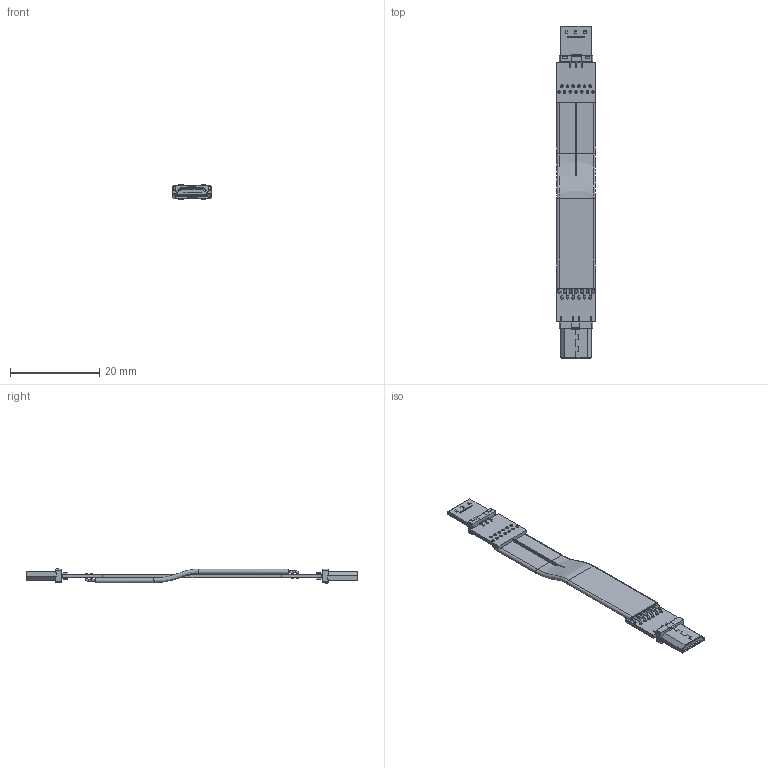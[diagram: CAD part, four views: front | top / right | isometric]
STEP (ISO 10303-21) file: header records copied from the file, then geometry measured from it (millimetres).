
FILE_DESCRIPTION(('Open CASCADE Model'),'2;1');
FILE_NAME('Open CASCADE Shape Model','2022-04-27T02:08:36',('Author'),( 'Open CASCADE'),'Open CASCADE STEP processor 6.8','Open CASCADE 6.8' ,'Unknown');
FILE_SCHEMA(('AUTOMOTIVE_DESIGN { 1 0 10303 214 1 1 1 1 }'));
Length unit declared in the file: millimetre
Products named in the file (34): PCB; Board; Open CASCADE STEP translator 6.8 1.1.1; Designator22_1; micro_usb1; Designator22; Free-Models; cable13-US1A
Assembly tree (34 placements, depth 3):
  PCB
    Board
      Open CASCADE STEP translator 6.8 1.1.1
    Designator22_1
      micro_usb1
    Designator22
      micro_usb1
    Free-Models
      cable13-US1A
      cable13-US1A
      cable13-US1A
      cable13-US1A
      cable13-US1A
      cable13-US1A
      cable13-US1A
      cable13-US1A
      cable13-US1A
      cable13-US1A
      cable13-US1A
      cable13-US1A
      cable13-US1A
      cable13-US1A
      cable13-US1A
      cable13-US1A
      cable13-US1A
      cable13-US1A
      cable13-US1A
      cable13-US1A
      cable13-US1A
      cable13-US1A
      cable13-US1A
      cable13-US1A
      cable13-US1A
      cable13-US1A
      cable13-US1A
Bounding box: 8.76 x 74.27 x 3.4 mm (x, y, z)
Volume: 612.3 mm3; surface area: 2952.6 mm2
Topology: 30 solids, 30 shells, 639 faces, 1462 edges, 929 vertices
Faces by surface type: plane 423, cylinder 151, bspline 33, torus 26, extrusion 6
Full cylindrical faces by diameter (mm): 0.4 x59, 0.6 x26
Entity records: 17199 total; most frequent: CARTESIAN_POINT 3631, DIRECTION 1951, ORIENTED_EDGE 1890, EDGE_CURVE 945, AXIS2_PLACEMENT_3D 692, VERTEX_POINT 595, VECTOR 567, LINE 561
